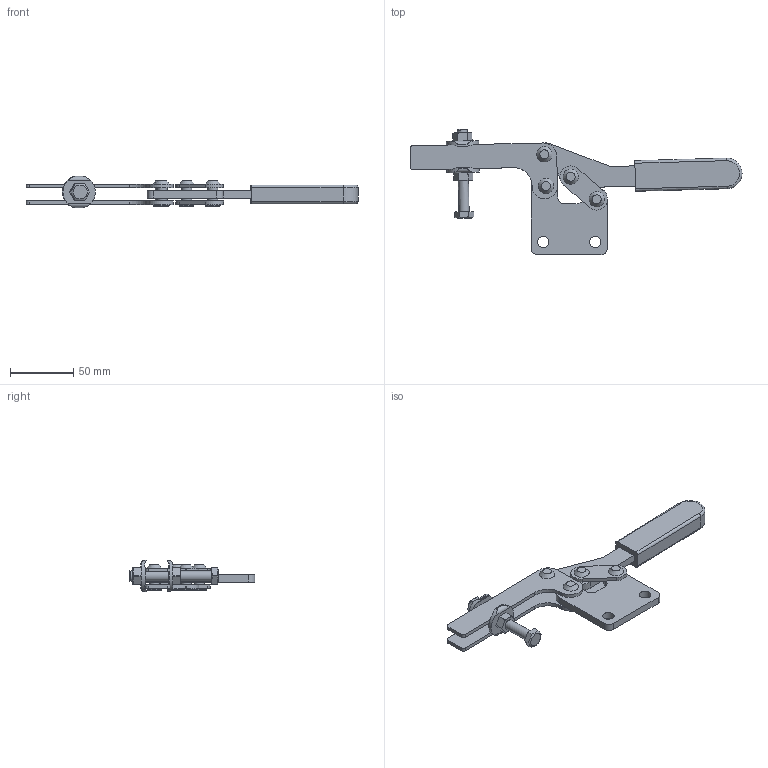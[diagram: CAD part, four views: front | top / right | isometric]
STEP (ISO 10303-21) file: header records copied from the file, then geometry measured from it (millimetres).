
FILE_DESCRIPTION(/* description */ (''),/* implementation_level */ '2;1');
FILE_NAME(/* name */ 'D:\3D作業領域\3D\43B\No.43B.stp',/* time_stamp */ '2021-12-03T10:00:46+09:00',/* author */ ('y-takahashi'),/* organization */ (''),/* preprocessor_version */ 'ST-DEVELOPER v18',/* originating_system */ 'Autodesk Inventor 2020',/* authorisation */ '');
FILE_SCHEMA (('AUTOMOTIVE_DESIGN { 1 0 10303 214 3 1 1 }'));
Length unit declared in the file: millimetre
Products named in the file (13): No.43B; 43Bベース; 43アーム; 43アーム_1; 43リンク; 43リンク_1; 43リベット; 43ハンドル; 43AGRP; 43SPD; 43座金; M8ナット; M8×65ボルト
Assembly tree (16 placements, depth 3):
  No.43B
    43Bベース
    43アーム
      43アーム_1
      43リベット  x2
    43リンク
      43リンク_1
      43リベット  x2
    43ハンドル
    43AGRP
    43SPD
      43座金
      M8ナット  x2
      M8×65ボルト
Bounding box: 261.61 x 98.87 x 24.6 mm (x, y, z)
Volume: 84447.3 mm3; surface area: 49011.9 mm2
Topology: 16 solids, 16 shells, 215 faces, 518 edges, 349 vertices
Faces by surface type: plane 104, cylinder 79, cone 22, torus 10
Full cylindrical faces by diameter (mm): 5.5 x4, 6.647 x2, 8 x17, 8.4 x2, 9 x2, 11.5 x4
Entity records: 5438 total; most frequent: CARTESIAN_POINT 964, DIRECTION 898, ORIENTED_EDGE 774, EDGE_CURVE 387, AXIS2_PLACEMENT_3D 349, VERTEX_POINT 257, LINE 200, VECTOR 200
